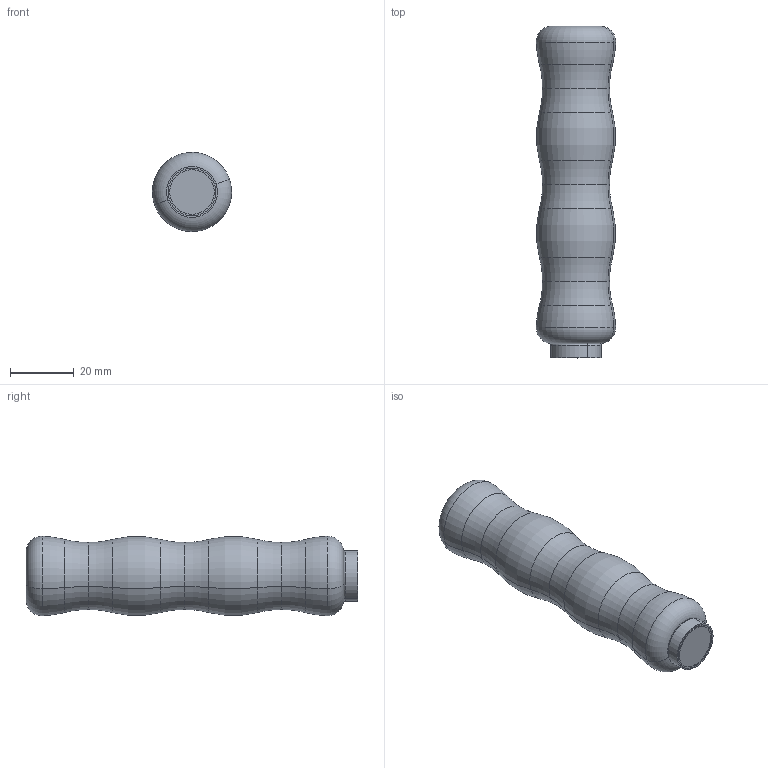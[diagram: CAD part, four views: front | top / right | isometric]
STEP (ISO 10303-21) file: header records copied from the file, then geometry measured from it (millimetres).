
FILE_DESCRIPTION (( 'STEP AP203' ), '1' );
FILE_NAME ('45000-30.STEP', '2016-11-28T12:22:19', ( '' ), ( '' ), 'SwSTEP 2.0', 'SolidWorks 2015', '' );
FILE_SCHEMA (( 'CONFIG_CONTROL_DESIGN' ));
Length unit declared in the file: millimetre
Products named in the file (1): 45000-30
Bounding box: 24.97 x 104.5 x 24.97 mm (x, y, z)
Volume: 39906 mm3; surface area: 9896 mm2
Topology: 2 solids, 2 shells, 52 faces, 102 edges, 57 vertices
Faces by surface type: torus 26, cylinder 12, plane 8, cone 6
Entity records: 1409 total; most frequent: DIRECTION 288, CARTESIAN_POINT 210, ORIENTED_EDGE 200, AXIS2_PLACEMENT_3D 135, EDGE_CURVE 100, CIRCLE 82, EDGE_LOOP 57, VERTEX_POINT 57
